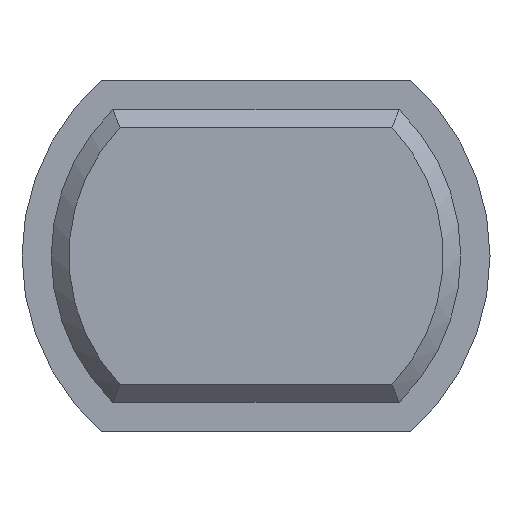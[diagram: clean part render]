
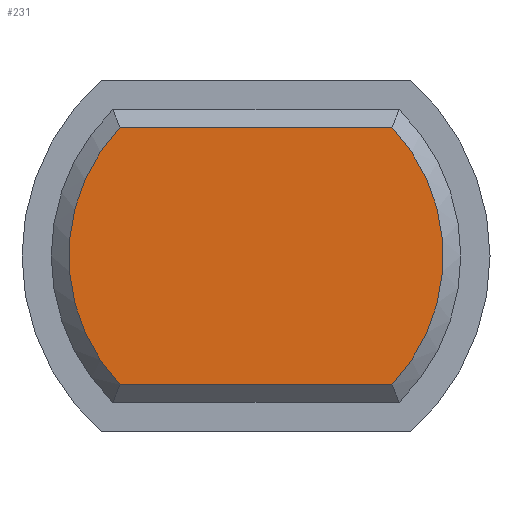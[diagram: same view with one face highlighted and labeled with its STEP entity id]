
A CAD part, front view. The second image highlights one B-rep face of the part: STEP entity #231.
In plain terms, the highlighted planar face has unit normal (0, -1, 0).
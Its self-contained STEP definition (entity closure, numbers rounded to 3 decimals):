
#31 = CARTESIAN_POINT ( 'NONE',  ( 2.324, -7.701, -2.2 ) ) ;
#40 = CARTESIAN_POINT ( 'NONE',  ( -2.324, -7.701, -2.2 ) ) ;
#49 = VERTEX_POINT ( 'NONE', #31 ) ;
#58 = LINE ( 'NONE', #680, #750 ) ;
#80 = ORIENTED_EDGE ( 'NONE', *, *, #639, .T. ) ;
#106 = CIRCLE ( 'NONE', #230, 3.2 ) ;
#116 = CARTESIAN_POINT ( 'NONE',  ( -2.324, -7.701, 2.2 ) ) ;
#154 = DIRECTION ( 'NONE',  ( 0., 0., -1. ) ) ;
#158 = CARTESIAN_POINT ( 'NONE',  ( 0., -7.701, 0. ) ) ;
#167 = CARTESIAN_POINT ( 'NONE',  ( 0., -7.701, -2.2 ) ) ;
#198 = VERTEX_POINT ( 'NONE', #40 ) ;
#227 = EDGE_LOOP ( 'NONE', ( #671, #636, #273, #80 ) ) ;
#230 = AXIS2_PLACEMENT_3D ( 'NONE', #621, #269, #447 ) ;
#231 = ADVANCED_FACE ( 'NONE', ( #385 ), #700, .T. ) ;
#235 = DIRECTION ( 'NONE',  ( 0., -1., 0. ) ) ;
#269 = DIRECTION ( 'NONE',  ( 0., -1., 0. ) ) ;
#273 = ORIENTED_EDGE ( 'NONE', *, *, #460, .T. ) ;
#284 = EDGE_CURVE ( 'NONE', #49, #464, #334, .T. ) ;
#286 = LINE ( 'NONE', #167, #438 ) ;
#294 = DIRECTION ( 'NONE',  ( -1., 0., 0. ) ) ;
#298 = EDGE_CURVE ( 'NONE', #464, #625, #58, .T. ) ;
#334 = CIRCLE ( 'NONE', #724, 3.2 ) ;
#385 = FACE_OUTER_BOUND ( 'NONE', #227, .T. ) ;
#398 = DIRECTION ( 'NONE',  ( 1., 0., 0. ) ) ;
#436 = CARTESIAN_POINT ( 'NONE',  ( 2.324, -7.701, 2.2 ) ) ;
#438 = VECTOR ( 'NONE', #398, 1000. ) ;
#447 = DIRECTION ( 'NONE',  ( 0., 0., -1. ) ) ;
#460 = EDGE_CURVE ( 'NONE', #625, #198, #106, .T. ) ;
#464 = VERTEX_POINT ( 'NONE', #436 ) ;
#465 = DIRECTION ( 'NONE',  ( 0., 0., -1. ) ) ;
#515 = CARTESIAN_POINT ( 'NONE',  ( 0., -7.701, 0. ) ) ;
#586 = DIRECTION ( 'NONE',  ( 0., -1., 0. ) ) ;
#621 = CARTESIAN_POINT ( 'NONE',  ( 0., -7.701, 0. ) ) ;
#625 = VERTEX_POINT ( 'NONE', #116 ) ;
#636 = ORIENTED_EDGE ( 'NONE', *, *, #298, .T. ) ;
#639 = EDGE_CURVE ( 'NONE', #198, #49, #286, .T. ) ;
#671 = ORIENTED_EDGE ( 'NONE', *, *, #284, .T. ) ;
#680 = CARTESIAN_POINT ( 'NONE',  ( 0., -7.701, 2.2 ) ) ;
#700 = PLANE ( 'NONE',  #745 ) ;
#724 = AXIS2_PLACEMENT_3D ( 'NONE', #515, #586, #154 ) ;
#745 = AXIS2_PLACEMENT_3D ( 'NONE', #158, #235, #465 ) ;
#750 = VECTOR ( 'NONE', #294, 1000. ) ;
